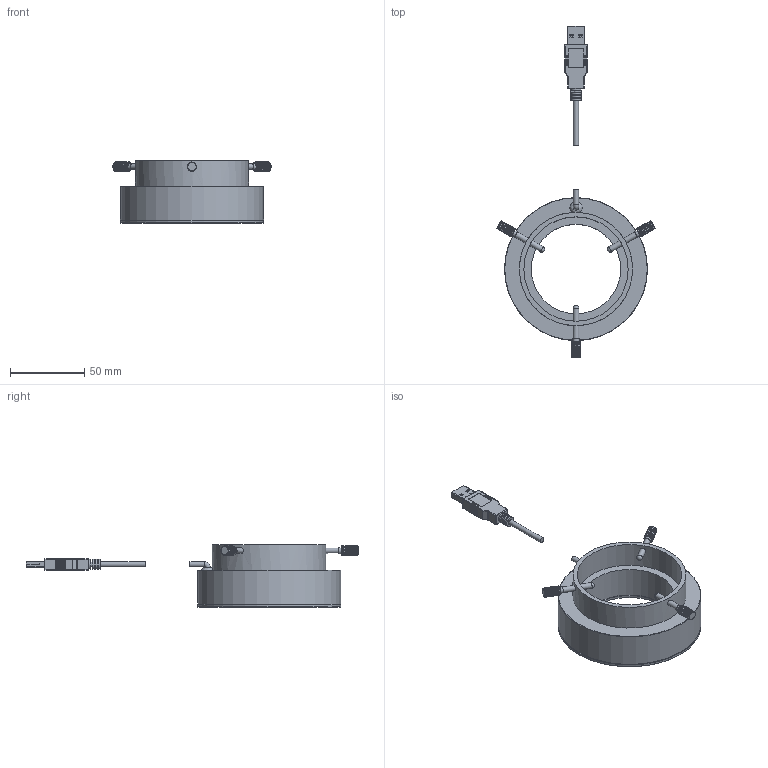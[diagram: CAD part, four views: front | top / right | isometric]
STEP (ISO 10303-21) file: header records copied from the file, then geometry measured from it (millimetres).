
FILE_DESCRIPTION(('STEP AP214'),'1');
FILE_NAME('LED-80T.stp','2025-10-03T03:18:59',(' '),(' '),'Spatial InterOp 3D',' ',' ');
FILE_SCHEMA(('AUTOMOTIVE_DESIGN { 1 0 10303 214 1 1 1 1 }'));
Length unit declared in the file: metre
Products named in the file (3): LED-80T; Component1; Component2
Assembly tree (2 placements, depth 2):
  LED-80T
    Component1
    Component2
Bounding box: 106.15 x 222.85 x 42 mm (x, y, z)
Volume: 103961.6 mm3; surface area: 72850.5 mm2
Topology: 3 solids, 6 shells, 1222 faces, 3200 edges, 1991 vertices
Faces by surface type: plane 776, cylinder 323, sphere 95, cone 22, torus 5, bspline 1
Full cylindrical faces by diameter (mm): 3.5 x3, 3.6 x1, 3.8 x6, 4.1 x3, 4.8 x80, 5.9 x6, 6.8 x1, 60 x2, 62 x1, 62.5 x1, 70 x1, 76 x1, 84 x2, 89 x1, 89.793 x1, 91 x1, 93 x2, 96 x2
Entity records: 53815 total; most frequent: CARTESIAN_POINT 11162, DIRECTION 5904, ORIENTED_EDGE 5676, EDGE_CURVE 2838, STYLED_ITEM 2087, PRESENTATION_STYLE_ASSIGNMENT 2087, COLOUR_RGB 2087, LINE 2038
